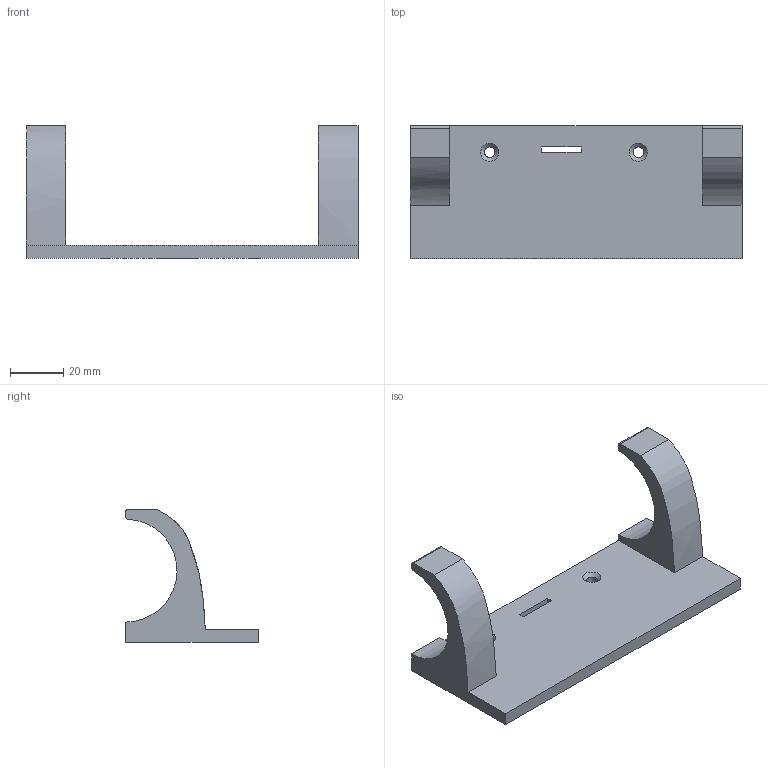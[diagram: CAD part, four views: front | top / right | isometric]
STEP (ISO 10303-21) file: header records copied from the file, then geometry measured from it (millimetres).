
FILE_DESCRIPTION(('HOOPS Exchange Step'),'2;1');
FILE_NAME('/Users/sparky/Library/Containers/com.shapr3d.shapr/Data/tmp/export/temp_export','2026-07-10T21:18:20+17:00',('sparky'),('Shapr3D Limited'),'HOOPS Exchange 2026.3','Shapr3D','Authorized');
FILE_SCHEMA( ('AP242_MANAGED_MODEL_BASED_3D_ENGINEERING_MIM_LF {1 0 10303 442 1 1 4}') );
Length unit declared in the file: millimetre
Products named in the file (1): root
Bounding box: 125 x 50 x 50 mm (x, y, z)
Volume: 47912.1 mm3; surface area: 19660.8 mm2
Topology: 1 solids, 1 shells, 28 faces, 76 edges, 50 vertices
Faces by surface type: plane 16, cylinder 8, bspline 2, cone 2
Full cylindrical faces by diameter (mm): 4 x2
Entity records: 1073 total; most frequent: CARTESIAN_POINT 313, ORIENTED_EDGE 152, DIRECTION 146, EDGE_CURVE 76, VECTOR 54, LINE 54, VERTEX_POINT 50, AXIS2_PLACEMENT_3D 46
